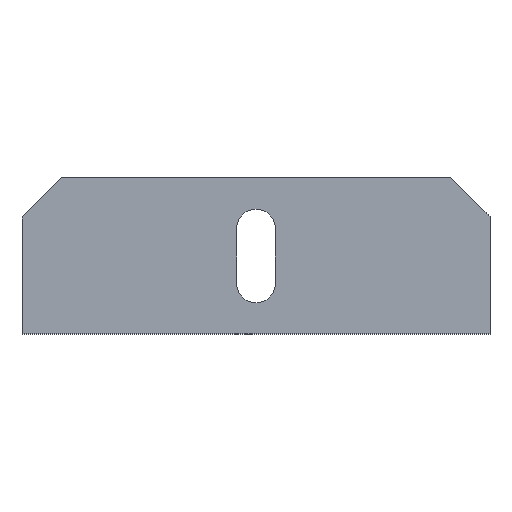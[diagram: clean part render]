
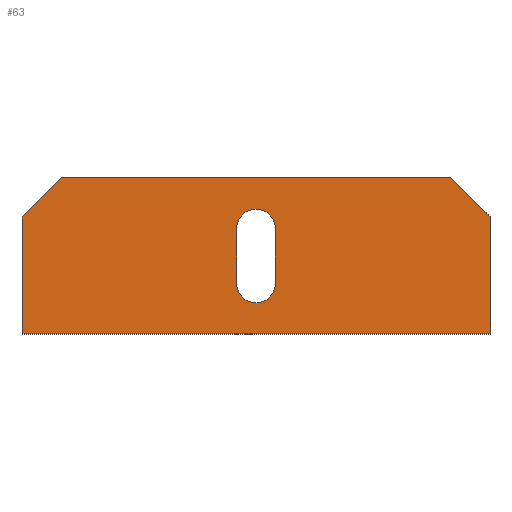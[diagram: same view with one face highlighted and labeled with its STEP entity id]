
A CAD part, top view. The second image highlights one B-rep face of the part: STEP entity #63.
In plain terms, the highlighted planar face has unit normal (0, 0, 1).
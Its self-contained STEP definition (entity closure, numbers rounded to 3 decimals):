
#8 = VECTOR ( 'NONE', #223, 1000. ) ;
#18 = LINE ( 'NONE', #192, #424 ) ;
#20 = DIRECTION ( 'NONE',  ( 0., -1., 0. ) ) ;
#21 = VECTOR ( 'NONE', #281, 1000. ) ;
#23 = VERTEX_POINT ( 'NONE', #387 ) ;
#25 = DIRECTION ( 'NONE',  ( 1., 0., 0. ) ) ;
#28 = AXIS2_PLACEMENT_3D ( 'NONE', #36, #31, #277 ) ;
#31 = DIRECTION ( 'NONE',  ( 0., 0., -1. ) ) ;
#32 = EDGE_CURVE ( 'NONE', #23, #158, #39, .T. ) ;
#34 = PLANE ( 'NONE',  #28 ) ;
#36 = CARTESIAN_POINT ( 'NONE',  ( -30., 20., 0. ) ) ;
#39 = CIRCLE ( 'NONE', #251, 2.5 ) ;
#44 = EDGE_CURVE ( 'NONE', #95, #113, #360, .T. ) ;
#47 = EDGE_CURVE ( 'NONE', #190, #353, #52, .T. ) ;
#52 = LINE ( 'NONE', #322, #87 ) ;
#63 = ADVANCED_FACE ( 'NONE', ( #337, #400 ), #34, .F. ) ;
#69 = EDGE_CURVE ( 'NONE', #415, #208, #118, .T. ) ;
#70 = EDGE_LOOP ( 'NONE', ( #391, #384, #232, #126, #418, #289 ) ) ;
#72 = DIRECTION ( 'NONE',  ( 1., 0., 0. ) ) ;
#74 = DIRECTION ( 'NONE',  ( 0., 1., 0. ) ) ;
#87 = VECTOR ( 'NONE', #20, 1000. ) ;
#90 = CARTESIAN_POINT ( 'NONE',  ( 30., 20., 0. ) ) ;
#93 = CARTESIAN_POINT ( 'NONE',  ( -25., 20., 0. ) ) ;
#95 = VERTEX_POINT ( 'NONE', #210 ) ;
#110 = CARTESIAN_POINT ( 'NONE',  ( -2.5, 6.5, 0. ) ) ;
#113 = VERTEX_POINT ( 'NONE', #341 ) ;
#118 = CIRCLE ( 'NONE', #332, 2.5 ) ;
#119 = DIRECTION ( 'NONE',  ( 0., 0., 1. ) ) ;
#126 = ORIENTED_EDGE ( 'NONE', *, *, #422, .T. ) ;
#131 = DIRECTION ( 'NONE',  ( -0.707, 0.707, 0. ) ) ;
#137 = LINE ( 'NONE', #394, #299 ) ;
#138 = LINE ( 'NONE', #166, #21 ) ;
#142 = ORIENTED_EDGE ( 'NONE', *, *, #405, .F. ) ;
#158 = VERTEX_POINT ( 'NONE', #368 ) ;
#166 = CARTESIAN_POINT ( 'NONE',  ( -30., 15., 0. ) ) ;
#176 = VECTOR ( 'NONE', #131, 1000. ) ;
#187 = EDGE_CURVE ( 'NONE', #353, #113, #407, .T. ) ;
#190 = VERTEX_POINT ( 'NONE', #207 ) ;
#192 = CARTESIAN_POINT ( 'NONE',  ( -30., 20., 0. ) ) ;
#195 = EDGE_CURVE ( 'NONE', #415, #158, #137, .T. ) ;
#201 = CARTESIAN_POINT ( 'NONE',  ( 0., 6.5, 0. ) ) ;
#207 = CARTESIAN_POINT ( 'NONE',  ( -30., 15., 0. ) ) ;
#208 = VERTEX_POINT ( 'NONE', #430 ) ;
#210 = CARTESIAN_POINT ( 'NONE',  ( 30., 15., 0. ) ) ;
#223 = DIRECTION ( 'NONE',  ( 0., -1., 0. ) ) ;
#230 = CARTESIAN_POINT ( 'NONE',  ( 0., 13.5, 0. ) ) ;
#232 = ORIENTED_EDGE ( 'NONE', *, *, #249, .F. ) ;
#239 = CARTESIAN_POINT ( 'NONE',  ( 2.5, 6.5, 0. ) ) ;
#240 = DIRECTION ( 'NONE',  ( 1., 0., 0. ) ) ;
#244 = EDGE_CURVE ( 'NONE', #95, #429, #399, .T. ) ;
#246 = LINE ( 'NONE', #239, #403 ) ;
#249 = EDGE_CURVE ( 'NONE', #286, #429, #18, .T. ) ;
#251 = AXIS2_PLACEMENT_3D ( 'NONE', #230, #119, #25 ) ;
#277 = DIRECTION ( 'NONE',  ( -1., 0., 0. ) ) ;
#281 = DIRECTION ( 'NONE',  ( -0.707, -0.707, 0. ) ) ;
#286 = VERTEX_POINT ( 'NONE', #93 ) ;
#289 = ORIENTED_EDGE ( 'NONE', *, *, #187, .T. ) ;
#292 = DIRECTION ( 'NONE',  ( 0., 1., 0. ) ) ;
#299 = VECTOR ( 'NONE', #292, 1000. ) ;
#304 = CARTESIAN_POINT ( 'NONE',  ( -30., 0., 0. ) ) ;
#322 = CARTESIAN_POINT ( 'NONE',  ( -30., 20., 0. ) ) ;
#324 = VECTOR ( 'NONE', #240, 1000. ) ;
#330 = ORIENTED_EDGE ( 'NONE', *, *, #195, .T. ) ;
#331 = CARTESIAN_POINT ( 'NONE',  ( 30., 15., 0. ) ) ;
#332 = AXIS2_PLACEMENT_3D ( 'NONE', #201, #376, #72 ) ;
#337 = FACE_BOUND ( 'NONE', #393, .T. ) ;
#341 = CARTESIAN_POINT ( 'NONE',  ( 30., 0., 0. ) ) ;
#353 = VERTEX_POINT ( 'NONE', #356 ) ;
#356 = CARTESIAN_POINT ( 'NONE',  ( -30., 0., 0. ) ) ;
#360 = LINE ( 'NONE', #90, #8 ) ;
#368 = CARTESIAN_POINT ( 'NONE',  ( -2.5, 13.5, 0. ) ) ;
#374 = ORIENTED_EDGE ( 'NONE', *, *, #69, .F. ) ;
#376 = DIRECTION ( 'NONE',  ( 0., 0., 1. ) ) ;
#384 = ORIENTED_EDGE ( 'NONE', *, *, #244, .T. ) ;
#387 = CARTESIAN_POINT ( 'NONE',  ( 2.5, 13.5, 0. ) ) ;
#391 = ORIENTED_EDGE ( 'NONE', *, *, #44, .F. ) ;
#393 = EDGE_LOOP ( 'NONE', ( #330, #398, #142, #374 ) ) ;
#394 = CARTESIAN_POINT ( 'NONE',  ( -2.5, 6.5, 0. ) ) ;
#398 = ORIENTED_EDGE ( 'NONE', *, *, #32, .F. ) ;
#399 = LINE ( 'NONE', #331, #176 ) ;
#400 = FACE_OUTER_BOUND ( 'NONE', #70, .T. ) ;
#401 = CARTESIAN_POINT ( 'NONE',  ( 25., 20., 0. ) ) ;
#403 = VECTOR ( 'NONE', #74, 1000. ) ;
#405 = EDGE_CURVE ( 'NONE', #208, #23, #246, .T. ) ;
#407 = LINE ( 'NONE', #304, #324 ) ;
#415 = VERTEX_POINT ( 'NONE', #110 ) ;
#418 = ORIENTED_EDGE ( 'NONE', *, *, #47, .T. ) ;
#422 = EDGE_CURVE ( 'NONE', #286, #190, #138, .T. ) ;
#424 = VECTOR ( 'NONE', #433, 1000. ) ;
#429 = VERTEX_POINT ( 'NONE', #401 ) ;
#430 = CARTESIAN_POINT ( 'NONE',  ( 2.5, 6.5, 0. ) ) ;
#433 = DIRECTION ( 'NONE',  ( 1., 0., 0. ) ) ;
